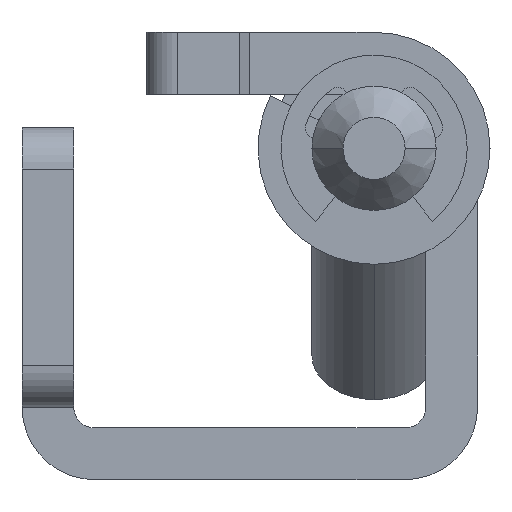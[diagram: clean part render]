
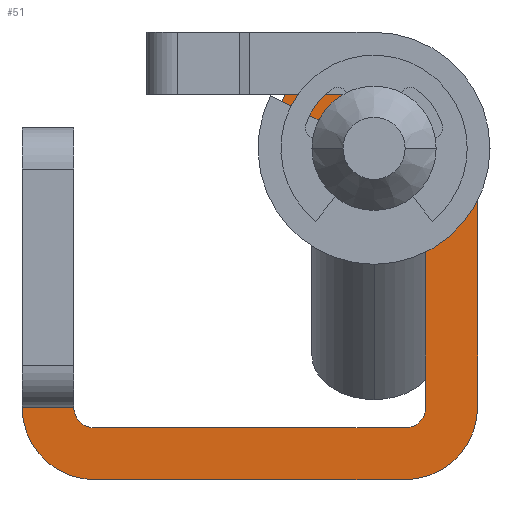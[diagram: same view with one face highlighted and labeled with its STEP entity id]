
A CAD part, front view. The second image highlights one B-rep face of the part: STEP entity #51.
In plain terms, the highlighted planar face has unit normal (0, -1, 0).
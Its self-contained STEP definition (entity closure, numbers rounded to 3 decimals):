
#51=ADVANCED_FACE('',(#148),#1634,.T.);
#148=FACE_OUTER_BOUND('',#249,.T.);
#249=EDGE_LOOP('',(#431,#432,#433,#434,#435,#436,#437,#438,#439,#440,#441,
#442,#443));
#431=ORIENTED_EDGE('',*,*,#873,.T.);
#432=ORIENTED_EDGE('',*,*,#845,.F.);
#433=ORIENTED_EDGE('',*,*,#842,.F.);
#434=ORIENTED_EDGE('',*,*,#839,.F.);
#435=ORIENTED_EDGE('',*,*,#836,.F.);
#436=ORIENTED_EDGE('',*,*,#833,.F.);
#437=ORIENTED_EDGE('',*,*,#829,.F.);
#438=ORIENTED_EDGE('',*,*,#862,.T.);
#439=ORIENTED_EDGE('',*,*,#861,.T.);
#440=ORIENTED_EDGE('',*,*,#858,.F.);
#441=ORIENTED_EDGE('',*,*,#855,.T.);
#442=ORIENTED_EDGE('',*,*,#852,.F.);
#443=ORIENTED_EDGE('',*,*,#848,.T.);
#829=EDGE_CURVE('',#1419,#1420,#1330,.T.);
#833=EDGE_CURVE('',#1420,#1423,#1102,.T.);
#836=EDGE_CURVE('',#1423,#1425,#1334,.T.);
#839=EDGE_CURVE('',#1425,#1427,#1104,.T.);
#842=EDGE_CURVE('',#1427,#1429,#1337,.T.);
#845=EDGE_CURVE('',#1429,#1431,#1106,.T.);
#848=EDGE_CURVE('',#1432,#1433,#1108,.T.);
#852=EDGE_CURVE('',#1432,#1435,#1342,.T.);
#855=EDGE_CURVE('',#1437,#1435,#1110,.T.);
#858=EDGE_CURVE('',#1437,#1439,#1345,.T.);
#861=EDGE_CURVE('',#1441,#1439,#1112,.T.);
#862=EDGE_CURVE('',#1419,#1441,#1113,.T.);
#873=EDGE_CURVE('',#1433,#1431,#1356,.T.);
#1102=TRIMMED_CURVE($,#1210,(#2452),(#2453),.T.,.CARTESIAN.);
#1104=TRIMMED_CURVE($,#1212,(#2466),(#2467),.T.,.CARTESIAN.);
#1106=TRIMMED_CURVE($,#1214,(#2480),(#2481),.T.,.CARTESIAN.);
#1108=TRIMMED_CURVE($,#1216,(#2488),(#2489),.T.,.CARTESIAN.);
#1110=TRIMMED_CURVE($,#1218,(#2504),(#2505),.T.,.CARTESIAN.);
#1112=TRIMMED_CURVE($,#1220,(#2518),(#2519),.T.,.CARTESIAN.);
#1113=TRIMMED_CURVE($,#1221,(#2521),(#2522),.T.,.CARTESIAN.);
#1210=CIRCLE('',#1777,5.);
#1212=CIRCLE('',#1779,3.5);
#1214=CIRCLE('',#1781,3.5);
#1216=CIRCLE('',#1783,1.);
#1218=CIRCLE('',#1785,1.);
#1220=CIRCLE('',#1787,2.5);
#1221=CIRCLE('',#1788,2.5);
#1330=B_SPLINE_CURVE_WITH_KNOTS('',1,(#2443,#2444),.UNSPECIFIED.,.F.,.F.,
(2,2),(0.,2.5),.UNSPECIFIED.);
#1334=B_SPLINE_CURVE_WITH_KNOTS('',1,(#2459,#2460),.UNSPECIFIED.,.F.,.F.,
(2,2),(0.,12.5),.UNSPECIFIED.);
#1337=B_SPLINE_CURVE_WITH_KNOTS('',1,(#2473,#2474),.UNSPECIFIED.,.F.,.F.,
(2,2),(0.,15.),.UNSPECIFIED.);
#1342=B_SPLINE_CURVE_WITH_KNOTS('',1,(#2497,#2498),.UNSPECIFIED.,.F.,.F.,
(2,2),(0.,15.),.UNSPECIFIED.);
#1345=B_SPLINE_CURVE_WITH_KNOTS('',1,(#2511,#2512),.UNSPECIFIED.,.F.,.F.,
(2,2),(0.,12.5),.UNSPECIFIED.);
#1356=B_SPLINE_CURVE_WITH_KNOTS('',1,(#2549,#2550),.UNSPECIFIED.,.F.,.F.,
(2,2),(0.,2.5),.UNSPECIFIED.);
#1419=VERTEX_POINT('',#2377);
#1420=VERTEX_POINT('',#2378);
#1423=VERTEX_POINT('',#2381);
#1425=VERTEX_POINT('',#2383);
#1427=VERTEX_POINT('',#2385);
#1429=VERTEX_POINT('',#2387);
#1431=VERTEX_POINT('',#2389);
#1432=VERTEX_POINT('',#2390);
#1433=VERTEX_POINT('',#2391);
#1435=VERTEX_POINT('',#2393);
#1437=VERTEX_POINT('',#2395);
#1439=VERTEX_POINT('',#2397);
#1441=VERTEX_POINT('',#2399);
#1634=PLANE('',#1767);
#1767=AXIS2_PLACEMENT_3D('',#2275,#1967,$);
#1777=AXIS2_PLACEMENT_3D($,#2451,#1977,#1978);
#1779=AXIS2_PLACEMENT_3D($,#2465,#1981,#1982);
#1781=AXIS2_PLACEMENT_3D($,#2479,#1985,#1986);
#1783=AXIS2_PLACEMENT_3D($,#2487,#1989,#1990);
#1785=AXIS2_PLACEMENT_3D($,#2503,#1993,#1994);
#1787=AXIS2_PLACEMENT_3D($,#2517,#1997,#1998);
#1788=AXIS2_PLACEMENT_3D($,#2520,#1999,#2000);
#1967=DIRECTION('',(0.,-1.,0.));
#1977=DIRECTION('',(0.,1.,0.));
#1978=DIRECTION('',(0.483,0.,-0.875));
#1981=DIRECTION('',(0.,1.,0.));
#1982=DIRECTION('',(1.,0.,0.));
#1985=DIRECTION('',(0.,1.,0.));
#1986=DIRECTION('',(0.,0.,-1.));
#1989=DIRECTION('',(0.,1.,0.));
#1990=DIRECTION('',(0.,0.,-1.));
#1993=DIRECTION('',(0.,1.,0.));
#1994=DIRECTION('',(1.,0.,0.));
#1997=DIRECTION('',(0.,1.,0.));
#1998=DIRECTION('',(-0.93,0.,0.368));
#1999=DIRECTION('',(0.,1.,0.));
#2000=DIRECTION('',(0.483,0.,-0.875));
#2275=CARTESIAN_POINT('',(-27.886,-17.7,-1.886));
#2377=CARTESIAN_POINT('',(-9.677,-17.7,-9.284));
#2378=CARTESIAN_POINT('',(-8.469,-17.7,-11.473));
#2381=CARTESIAN_POINT('',(-5.886,-17.7,-7.096));
#2383=CARTESIAN_POINT('',(-5.886,-17.7,-19.596));
#2385=CARTESIAN_POINT('',(-9.386,-17.7,-23.096));
#2387=CARTESIAN_POINT('',(-24.386,-17.7,-23.096));
#2389=CARTESIAN_POINT('',(-27.886,-17.7,-19.596));
#2390=CARTESIAN_POINT('',(-24.386,-17.7,-20.596));
#2391=CARTESIAN_POINT('',(-25.386,-17.7,-19.596));
#2393=CARTESIAN_POINT('',(-9.386,-17.7,-20.596));
#2395=CARTESIAN_POINT('',(-8.386,-17.7,-19.596));
#2397=CARTESIAN_POINT('',(-8.386,-17.7,-7.096));
#2399=CARTESIAN_POINT('',(-13.21,-17.7,-6.175));
#2443=CARTESIAN_POINT('',(-9.677,-17.7,-9.284));
#2444=CARTESIAN_POINT('',(-8.469,-17.7,-11.473));
#2451=CARTESIAN_POINT('',(-10.886,-17.7,-7.096));
#2452=CARTESIAN_POINT('',(-8.469,-17.7,-11.473));
#2453=CARTESIAN_POINT('',(-5.886,-17.7,-7.096));
#2459=CARTESIAN_POINT('',(-5.886,-17.7,-7.096));
#2460=CARTESIAN_POINT('',(-5.886,-17.7,-19.596));
#2465=CARTESIAN_POINT('',(-9.386,-17.7,-19.596));
#2466=CARTESIAN_POINT('',(-5.886,-17.7,-19.596));
#2467=CARTESIAN_POINT('',(-9.386,-17.7,-23.096));
#2473=CARTESIAN_POINT('',(-9.386,-17.7,-23.096));
#2474=CARTESIAN_POINT('',(-24.386,-17.7,-23.096));
#2479=CARTESIAN_POINT('',(-24.386,-17.7,-19.596));
#2480=CARTESIAN_POINT('',(-24.386,-17.7,-23.096));
#2481=CARTESIAN_POINT('',(-27.886,-17.7,-19.596));
#2487=CARTESIAN_POINT('',(-24.386,-17.7,-19.596));
#2488=CARTESIAN_POINT('',(-24.386,-17.7,-20.596));
#2489=CARTESIAN_POINT('',(-25.386,-17.7,-19.596));
#2497=CARTESIAN_POINT('',(-24.386,-17.7,-20.596));
#2498=CARTESIAN_POINT('',(-9.386,-17.7,-20.596));
#2503=CARTESIAN_POINT('',(-9.386,-17.7,-19.596));
#2504=CARTESIAN_POINT('',(-8.386,-17.7,-19.596));
#2505=CARTESIAN_POINT('',(-9.386,-17.7,-20.596));
#2511=CARTESIAN_POINT('',(-8.386,-17.7,-19.596));
#2512=CARTESIAN_POINT('',(-8.386,-17.7,-7.096));
#2517=CARTESIAN_POINT('',(-10.886,-17.7,-7.096));
#2518=CARTESIAN_POINT('',(-13.21,-17.7,-6.175));
#2519=CARTESIAN_POINT('',(-8.386,-17.7,-7.096));
#2520=CARTESIAN_POINT('',(-10.886,-17.7,-7.096));
#2521=CARTESIAN_POINT('',(-9.677,-17.7,-9.284));
#2522=CARTESIAN_POINT('',(-13.21,-17.7,-6.175));
#2549=CARTESIAN_POINT('',(-25.386,-17.7,-19.596));
#2550=CARTESIAN_POINT('',(-27.886,-17.7,-19.596));
